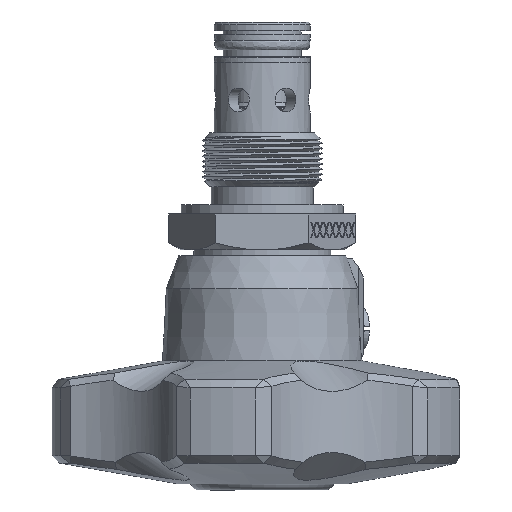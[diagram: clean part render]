
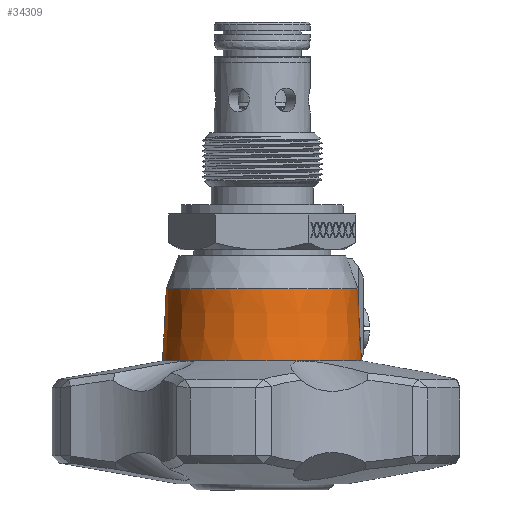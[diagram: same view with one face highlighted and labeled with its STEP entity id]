
A CAD part, front view. The second image highlights one B-rep face of the part: STEP entity #34309.
In plain terms, the highlighted conical face has half-angle 3 degrees and reference radius 16.002 mm.
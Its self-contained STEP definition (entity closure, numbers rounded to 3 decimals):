
#674 = DIRECTION ( 'NONE',  ( 0., 0., 1. ) ) ;
#907 = CARTESIAN_POINT ( 'NONE',  ( 0., 17.5, 0. ) ) ;
#1077 = DIRECTION ( 'NONE',  ( 0., 0., 1. ) ) ;
#1429 = AXIS2_PLACEMENT_3D ( 'NONE', #21220, #22123, #38389 ) ;
#1486 = CIRCLE ( 'NONE', #15042, 16.631 ) ;
#1826 = EDGE_CURVE ( 'NONE', #18645, #7240, #10856, .T. ) ;
#2968 = B_SPLINE_CURVE_WITH_KNOTS ( 'NONE', 3,
 ( #7402, #7825, #38155, #4022 ),
 .UNSPECIFIED., .F., .F.,
 ( 4, 4 ),
 ( 0., 0.007 ),
 .UNSPECIFIED. ) ;
#3922 = CARTESIAN_POINT ( 'NONE',  ( 0., 5.5, 0. ) ) ;
#4022 = CARTESIAN_POINT ( 'NONE',  ( 16.014, 17.5, 4.486 ) ) ;
#4601 = CARTESIAN_POINT ( 'NONE',  ( 15.428, 10.048, -5.072 ) ) ;
#6167 = DIRECTION ( 'NONE',  ( 0., 0., 1. ) ) ;
#6318 = EDGE_CURVE ( 'NONE', #31864, #37308, #1486, .T. ) ;
#6421 = VERTEX_POINT ( 'NONE', #35047 ) ;
#6457 = ORIENTED_EDGE ( 'NONE', *, *, #28808, .F. ) ;
#6727 = DIRECTION ( 'NONE',  ( 0., 0., 1. ) ) ;
#7119 = AXIS2_PLACEMENT_3D ( 'NONE', #26824, #20345, #20786 ) ;
#7240 = VERTEX_POINT ( 'NONE', #21362 ) ;
#7402 = CARTESIAN_POINT ( 'NONE',  ( 15.428, 10.048, 5.072 ) ) ;
#7414 = ORIENTED_EDGE ( 'NONE', *, *, #1826, .F. ) ;
#7428 = CARTESIAN_POINT ( 'NONE',  ( 15.237, 7.016, 5.142 ) ) ;
#7825 = CARTESIAN_POINT ( 'NONE',  ( 15.632, 12.53, 4.868 ) ) ;
#8066 = DIRECTION ( 'NONE',  ( 0., 1., 0. ) ) ;
#8566 = CIRCLE ( 'NONE', #7119, 16.631 ) ;
#8751 = B_SPLINE_CURVE_WITH_KNOTS ( 'NONE', 3,
 ( #28151, #27696, #7428, #21895 ),
 .UNSPECIFIED., .F., .F.,
 ( 4, 4 ),
 ( 0.007, 0.012 ),
 .UNSPECIFIED. ) ;
#9356 = VERTEX_POINT ( 'NONE', #41018 ) ;
#10400 = DIRECTION ( 'NONE',  ( 0., 1., 0. ) ) ;
#10856 = B_SPLINE_CURVE_WITH_KNOTS ( 'NONE', 3,
 ( #17995, #42508, #22226, #4601 ),
 .UNSPECIFIED., .F., .F.,
 ( 4, 4 ),
 ( 0., 0.005 ),
 .UNSPECIFIED. ) ;
#11000 = AXIS2_PLACEMENT_3D ( 'NONE', #3922, #10400, #30919 ) ;
#11259 = EDGE_CURVE ( 'NONE', #9356, #26625, #2968, .T. ) ;
#12263 = VERTEX_POINT ( 'NONE', #15915 ) ;
#12339 = EDGE_CURVE ( 'NONE', #12263, #26625, #8566, .T. ) ;
#13569 = CIRCLE ( 'NONE', #1429, 16.631 ) ;
#13848 = DIRECTION ( 'NONE',  ( 0., 1., 0. ) ) ;
#14708 = EDGE_CURVE ( 'NONE', #27685, #12263, #29177, .T. ) ;
#14737 = ORIENTED_EDGE ( 'NONE', *, *, #14708, .F. ) ;
#15042 = AXIS2_PLACEMENT_3D ( 'NONE', #907, #17430, #674 ) ;
#15915 = CARTESIAN_POINT ( 'NONE',  ( 9.775, 17.5, 13.455 ) ) ;
#16312 = CONICAL_SURFACE ( 'NONE', #44055, 16.002, 0.052 ) ;
#17312 = ORIENTED_EDGE ( 'NONE', *, *, #12339, .F. ) ;
#17430 = DIRECTION ( 'NONE',  ( 0., 1., 0. ) ) ;
#17995 = CARTESIAN_POINT ( 'NONE',  ( 15.141, 5.5, -5.176 ) ) ;
#18092 = CARTESIAN_POINT ( 'NONE',  ( -15.817, 17.5, -5.139 ) ) ;
#18258 = CARTESIAN_POINT ( 'NONE',  ( 0., 17.5, 0. ) ) ;
#18645 = VERTEX_POINT ( 'NONE', #28459 ) ;
#19531 = CIRCLE ( 'NONE', #11000, 16.002 ) ;
#20155 = CIRCLE ( 'NONE', #39376, 16.631 ) ;
#20244 = CIRCLE ( 'NONE', #22375, 16.631 ) ;
#20345 = DIRECTION ( 'NONE',  ( 0., 1., 0. ) ) ;
#20456 = EDGE_CURVE ( 'NONE', #6421, #7240, #35644, .T. ) ;
#20531 = CARTESIAN_POINT ( 'NONE',  ( 0., 17.5, 0. ) ) ;
#20786 = DIRECTION ( 'NONE',  ( 0., 0., 1. ) ) ;
#21220 = CARTESIAN_POINT ( 'NONE',  ( 0., 17.5, 0. ) ) ;
#21232 = CARTESIAN_POINT ( 'NONE',  ( -9.775, 17.5, 13.455 ) ) ;
#21274 = ORIENTED_EDGE ( 'NONE', *, *, #6318, .F. ) ;
#21362 = CARTESIAN_POINT ( 'NONE',  ( 15.428, 10.048, -5.072 ) ) ;
#21895 = CARTESIAN_POINT ( 'NONE',  ( 15.141, 5.5, 5.176 ) ) ;
#22123 = DIRECTION ( 'NONE',  ( 0., 1., 0. ) ) ;
#22226 = CARTESIAN_POINT ( 'NONE',  ( 15.333, 8.532, -5.107 ) ) ;
#22375 = AXIS2_PLACEMENT_3D ( 'NONE', #36518, #30060, #6167 ) ;
#23383 = CARTESIAN_POINT ( 'NONE',  ( 15.428, 10.048, -5.072 ) ) ;
#25895 = EDGE_CURVE ( 'NONE', #9356, #26891, #8751, .T. ) ;
#26533 = CARTESIAN_POINT ( 'NONE',  ( 15.632, 12.53, -4.868 ) ) ;
#26625 = VERTEX_POINT ( 'NONE', #30401 ) ;
#26824 = CARTESIAN_POINT ( 'NONE',  ( 0., 17.5, 0. ) ) ;
#26891 = VERTEX_POINT ( 'NONE', #33721 ) ;
#27685 = VERTEX_POINT ( 'NONE', #21232 ) ;
#27696 = CARTESIAN_POINT ( 'NONE',  ( 15.333, 8.532, 5.107 ) ) ;
#27864 = ORIENTED_EDGE ( 'NONE', *, *, #36254, .F. ) ;
#27919 = CARTESIAN_POINT ( 'NONE',  ( 0., 5.5, 0. ) ) ;
#28135 = FACE_OUTER_BOUND ( 'NONE', #32269, .T. ) ;
#28151 = CARTESIAN_POINT ( 'NONE',  ( 15.428, 10.048, 5.072 ) ) ;
#28459 = CARTESIAN_POINT ( 'NONE',  ( 15.141, 5.5, -5.176 ) ) ;
#28808 = EDGE_CURVE ( 'NONE', #6421, #31864, #20155, .T. ) ;
#29177 = CIRCLE ( 'NONE', #34875, 16.631 ) ;
#30060 = DIRECTION ( 'NONE',  ( 0., 1., 0. ) ) ;
#30401 = CARTESIAN_POINT ( 'NONE',  ( 16.014, 17.5, 4.486 ) ) ;
#30774 = EDGE_CURVE ( 'NONE', #37308, #39643, #20244, .T. ) ;
#30919 = DIRECTION ( 'NONE',  ( 0., 0., 1. ) ) ;
#31095 = CARTESIAN_POINT ( 'NONE',  ( 15.817, 17.5, -5.139 ) ) ;
#31864 = VERTEX_POINT ( 'NONE', #31095 ) ;
#32269 = EDGE_LOOP ( 'NONE', ( #42143, #38036, #17312, #14737, #27864, #41521, #21274, #6457, #44140, #7414, #36260 ) ) ;
#33721 = CARTESIAN_POINT ( 'NONE',  ( 15.141, 5.5, 5.176 ) ) ;
#34309 = ADVANCED_FACE ( 'NONE', ( #28135 ), #16312, .T. ) ;
#34875 = AXIS2_PLACEMENT_3D ( 'NONE', #18258, #41236, #1077 ) ;
#35047 = CARTESIAN_POINT ( 'NONE',  ( 16.014, 17.5, -4.486 ) ) ;
#35644 = B_SPLINE_CURVE_WITH_KNOTS ( 'NONE', 3,
 ( #40775, #37232, #26533, #23383 ),
 .UNSPECIFIED., .F., .F.,
 ( 4, 4 ),
 ( 0., 0.007 ),
 .UNSPECIFIED. ) ;
#36107 = CARTESIAN_POINT ( 'NONE',  ( 0., 17.5, -16.631 ) ) ;
#36254 = EDGE_CURVE ( 'NONE', #39643, #27685, #13569, .T. ) ;
#36260 = ORIENTED_EDGE ( 'NONE', *, *, #43386, .T. ) ;
#36518 = CARTESIAN_POINT ( 'NONE',  ( 0., 17.5, 0. ) ) ;
#37232 = CARTESIAN_POINT ( 'NONE',  ( 15.826, 15.015, -4.674 ) ) ;
#37308 = VERTEX_POINT ( 'NONE', #36107 ) ;
#38036 = ORIENTED_EDGE ( 'NONE', *, *, #11259, .T. ) ;
#38155 = CARTESIAN_POINT ( 'NONE',  ( 15.826, 15.015, 4.674 ) ) ;
#38389 = DIRECTION ( 'NONE',  ( 0., 0., 1. ) ) ;
#39376 = AXIS2_PLACEMENT_3D ( 'NONE', #20531, #13848, #6727 ) ;
#39643 = VERTEX_POINT ( 'NONE', #18092 ) ;
#40775 = CARTESIAN_POINT ( 'NONE',  ( 16.014, 17.5, -4.486 ) ) ;
#41018 = CARTESIAN_POINT ( 'NONE',  ( 15.428, 10.048, 5.072 ) ) ;
#41236 = DIRECTION ( 'NONE',  ( 0., 1., 0. ) ) ;
#41521 = ORIENTED_EDGE ( 'NONE', *, *, #30774, .F. ) ;
#41737 = DIRECTION ( 'NONE',  ( 0., 0., 1. ) ) ;
#42143 = ORIENTED_EDGE ( 'NONE', *, *, #25895, .F. ) ;
#42508 = CARTESIAN_POINT ( 'NONE',  ( 15.237, 7.016, -5.142 ) ) ;
#43386 = EDGE_CURVE ( 'NONE', #18645, #26891, #19531, .T. ) ;
#44055 = AXIS2_PLACEMENT_3D ( 'NONE', #27919, #8066, #41737 ) ;
#44140 = ORIENTED_EDGE ( 'NONE', *, *, #20456, .T. ) ;
